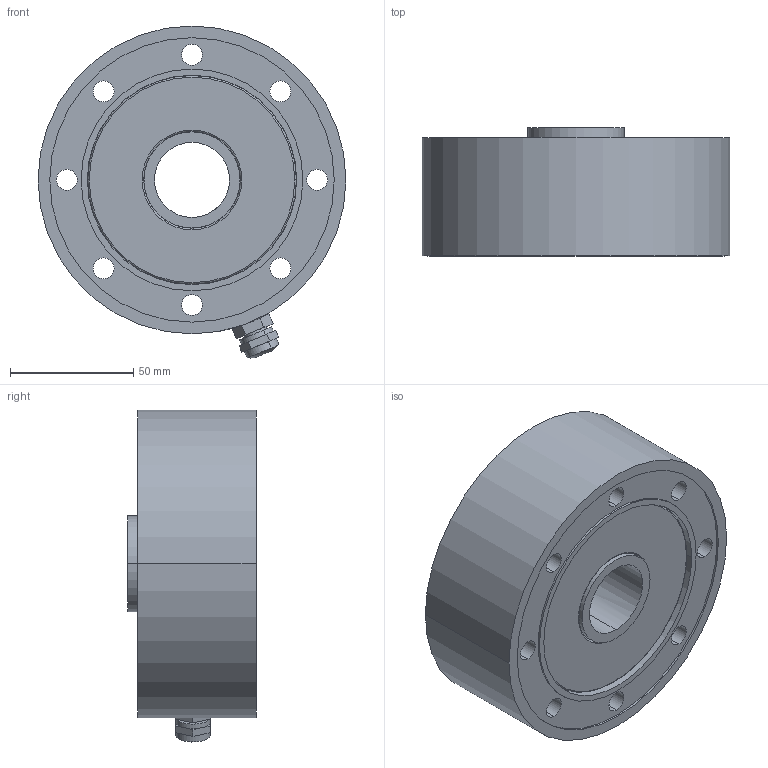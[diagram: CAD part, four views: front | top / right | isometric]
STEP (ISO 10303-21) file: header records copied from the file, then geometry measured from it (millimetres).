
FILE_DESCRIPTION (( 'STEP AP203' ), '1' );
FILE_NAME ('LCS-C2B 100KN~250KN.STEP', '2024-07-31T05:50:02', ( 'SMOWO' ), ( '' ), 'SwSTEP 2.0', 'SolidWorks 2020', '' );
FILE_SCHEMA (( 'CONFIG_CONTROL_DESIGN' ));
Length unit declared in the file: millimetre
Products named in the file (1): LCS-C2B 100KN~250KN
Bounding box: 125 x 52 x 134.82 mm (x, y, z)
Volume: 452197 mm3; surface area: 88400.8 mm2
Topology: 4 solids, 4 shells, 195 faces, 422 edges, 264 vertices
Faces by surface type: cylinder 96, plane 67, cone 20, torus 12
Entity records: 5635 total; most frequent: DIRECTION 1058, CARTESIAN_POINT 1034, ORIENTED_EDGE 844, AXIS2_PLACEMENT_3D 444, EDGE_CURVE 422, VERTEX_POINT 264, EDGE_LOOP 250, CIRCLE 248
